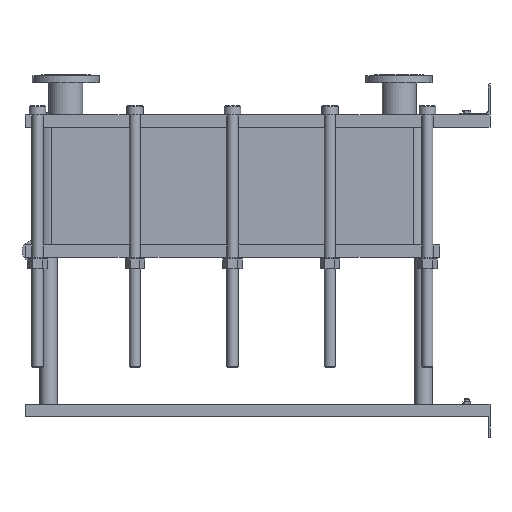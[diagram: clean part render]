
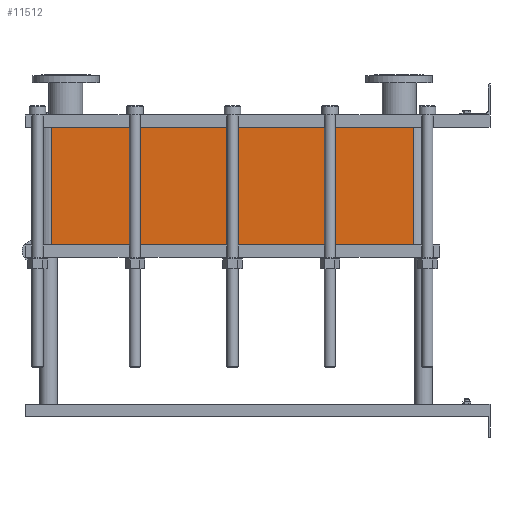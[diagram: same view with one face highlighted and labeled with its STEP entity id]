
A CAD part, left-side view. The second image highlights one B-rep face of the part: STEP entity #11512.
In plain terms, the highlighted planar face has unit normal (-1, 0, 0).
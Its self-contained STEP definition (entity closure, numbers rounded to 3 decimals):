
#1129=LINE('',#23232,#2102);
#1130=LINE('',#23236,#2103);
#1131=LINE('',#23238,#2104);
#1132=LINE('',#23239,#2105);
#2102=VECTOR('',#15887,10.);
#2103=VECTOR('',#15892,10.);
#2104=VECTOR('',#15893,10.);
#2105=VECTOR('',#15894,10.);
#3267=FACE_OUTER_BOUND('',#4093,.T.);
#4093=EDGE_LOOP('',(#10103,#10104,#10105,#10106));
#5642=VERTEX_POINT('',#23229);
#5643=VERTEX_POINT('',#23231);
#5644=VERTEX_POINT('',#23235);
#5645=VERTEX_POINT('',#23237);
#7159=EDGE_CURVE('',#5643,#5642,#1129,.T.);
#7161=EDGE_CURVE('',#5642,#5644,#1130,.T.);
#7162=EDGE_CURVE('',#5645,#5644,#1131,.T.);
#7163=EDGE_CURVE('',#5645,#5643,#1132,.T.);
#10103=ORIENTED_EDGE('',*,*,#7161,.T.);
#10104=ORIENTED_EDGE('',*,*,#7162,.F.);
#10105=ORIENTED_EDGE('',*,*,#7163,.T.);
#10106=ORIENTED_EDGE('',*,*,#7159,.T.);
#10857=PLANE('',#12751);
#11512=ADVANCED_FACE('',(#3267),#10857,.T.);
#12751=AXIS2_PLACEMENT_3D('',#23234,#15890,#15891);
#15887=DIRECTION('',(0.,0.,-1.));
#15890=DIRECTION('center_axis',(-1.,0.,0.));
#15891=DIRECTION('ref_axis',(0.,1.,0.));
#15892=DIRECTION('',(0.,-1.,0.));
#15893=DIRECTION('',(0.,0.,-1.));
#15894=DIRECTION('',(0.,1.,0.));
#23229=CARTESIAN_POINT('',(-200.,1414.,-379.5));
#23231=CARTESIAN_POINT('',(-200.,1414.,0.));
#23232=CARTESIAN_POINT('',(-200.,1414.,0.));
#23234=CARTESIAN_POINT('Origin',(-200.,248.,0.));
#23235=CARTESIAN_POINT('',(-200.,248.,-379.5));
#23236=CARTESIAN_POINT('',(-200.,539.5,-379.5));
#23237=CARTESIAN_POINT('',(-200.,248.,0.));
#23238=CARTESIAN_POINT('',(-200.,248.,0.));
#23239=CARTESIAN_POINT('',(-200.,248.,0.));
